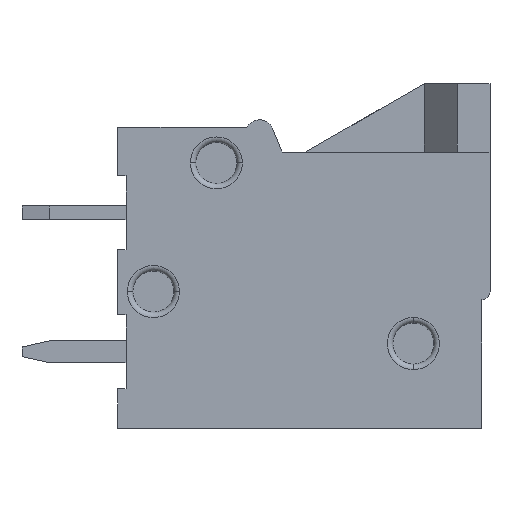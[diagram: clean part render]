
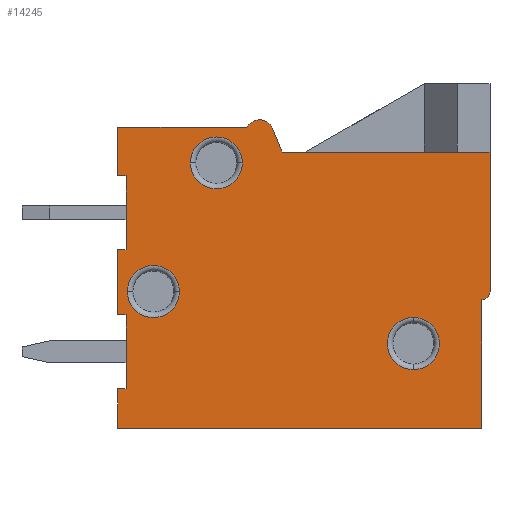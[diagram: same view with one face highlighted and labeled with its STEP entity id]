
A CAD part, front view. The second image highlights one B-rep face of the part: STEP entity #14245.
In plain terms, the highlighted planar face has unit normal (0, -1, 0).
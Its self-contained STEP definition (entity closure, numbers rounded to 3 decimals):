
#480=DIRECTION('',(0.,0.,-1.));
#481=VECTOR('',#480,5.1);
#482=CARTESIAN_POINT('',(6.95,0.,5.1));
#483=LINE('',#482,#481);
#1116=DIRECTION('',(0.,0.,-1.));
#1117=VECTOR('',#1116,2.7);
#1118=CARTESIAN_POINT('',(-6.35,0.,4.23));
#1119=LINE('',#1118,#1117);
#1168=DIRECTION('',(-1.,0.,0.));
#1169=VECTOR('',#1168,0.3);
#1170=CARTESIAN_POINT('',(-6.35,0.,1.53));
#1171=LINE('',#1170,#1169);
#1176=DIRECTION('',(0.,0.,1.));
#1177=VECTOR('',#1176,2.38);
#1178=CARTESIAN_POINT('',(-6.65,0.,-0.85));
#1179=LINE('',#1178,#1177);
#1180=DIRECTION('',(1.,0.,0.));
#1181=VECTOR('',#1180,0.3);
#1182=CARTESIAN_POINT('',(-6.65,0.,-0.85));
#1183=LINE('',#1182,#1181);
#1188=DIRECTION('',(0.,0.,-1.));
#1189=VECTOR('',#1188,2.7);
#1190=CARTESIAN_POINT('',(-6.35,0.,-0.85));
#1191=LINE('',#1190,#1189);
#1220=DIRECTION('',(-1.,0.,0.));
#1221=VECTOR('',#1220,0.3);
#1222=CARTESIAN_POINT('',(-6.35,0.,-3.55));
#1223=LINE('',#1222,#1221);
#1228=DIRECTION('',(0.,0.,1.));
#1229=VECTOR('',#1228,1.45);
#1230=CARTESIAN_POINT('',(-6.65,0.,-5.));
#1231=LINE('',#1230,#1229);
#1252=DIRECTION('',(-1.,0.,0.));
#1253=VECTOR('',#1252,13.3);
#1254=CARTESIAN_POINT('',(6.65,0.,-5.));
#1255=LINE('',#1254,#1253);
#1409=DIRECTION('',(0.,0.,-1.));
#1410=VECTOR('',#1409,4.7);
#1411=CARTESIAN_POINT('',(6.65,0.,-0.3));
#1412=LINE('',#1411,#1410);
#1417=CARTESIAN_POINT('',(6.65,0.,0.));
#1418=DIRECTION('',(0.,1.,0.));
#1419=DIRECTION('',(1.,0.,0.));
#1420=AXIS2_PLACEMENT_3D('',#1417,#1418,#1419);
#1422=DIRECTION('',(0.719,0.,0.695));
#1423=VECTOR('',#1422,0.195);
#1424=CARTESIAN_POINT('',(-1.95,0.,6.));
#1425=LINE('',#1424,#1423);
#1426=CARTESIAN_POINT('',(-1.462,0.,
5.776));
#1427=DIRECTION('',(0.,1.,0.));
#1428=DIRECTION('',(-0.695,0.,0.719));
#1429=AXIS2_PLACEMENT_3D('',#1426,#1427,#1428);
#1431=DIRECTION('',(0.375,0.,-0.927));
#1432=VECTOR('',#1431,0.931);
#1433=CARTESIAN_POINT('',(-0.999,0.,
5.963));
#1434=LINE('',#1433,#1432);
#1435=CARTESIAN_POINT('',(4.15,0.,-1.9));
#1436=DIRECTION('',(0.,-1.,0.));
#1437=DIRECTION('',(0.,0.,-1.));
#1438=AXIS2_PLACEMENT_3D('',#1435,#1436,#1437);
#1440=CARTESIAN_POINT('',(4.15,0.,-1.9));
#1441=DIRECTION('',(0.,-1.,0.));
#1442=DIRECTION('',(0.,0.,1.));
#1443=AXIS2_PLACEMENT_3D('',#1440,#1441,#1442);
#1445=CARTESIAN_POINT('',(-5.35,0.,0.));
#1446=DIRECTION('',(0.,-1.,0.));
#1447=DIRECTION('',(1.,0.,0.));
#1448=AXIS2_PLACEMENT_3D('',#1445,#1446,#1447);
#1450=CARTESIAN_POINT('',(-5.35,0.,0.));
#1451=DIRECTION('',(0.,-1.,0.));
#1452=DIRECTION('',(-1.,0.,0.));
#1453=AXIS2_PLACEMENT_3D('',#1450,#1451,#1452);
#1455=CARTESIAN_POINT('',(-3.05,0.,4.7));
#1456=DIRECTION('',(0.,-1.,0.));
#1457=DIRECTION('',(1.,0.,0.));
#1458=AXIS2_PLACEMENT_3D('',#1455,#1456,#1457);
#1460=CARTESIAN_POINT('',(-3.05,0.,4.7));
#1461=DIRECTION('',(0.,-1.,0.));
#1462=DIRECTION('',(-1.,0.,0.));
#1463=AXIS2_PLACEMENT_3D('',#1460,#1461,#1462);
#1473=DIRECTION('',(1.,0.,0.));
#1474=VECTOR('',#1473,0.3);
#1475=CARTESIAN_POINT('',(-6.65,0.,4.23));
#1476=LINE('',#1475,#1474);
#1477=DIRECTION('',(0.,0.,1.));
#1478=VECTOR('',#1477,1.77);
#1479=CARTESIAN_POINT('',(-6.65,0.,4.23));
#1480=LINE('',#1479,#1478);
#1493=DIRECTION('',(1.,0.,0.));
#1494=VECTOR('',#1493,4.7);
#1495=CARTESIAN_POINT('',(-6.65,0.,6.));
#1496=LINE('',#1495,#1494);
#3656=DIRECTION('',(1.,0.,0.));
#3657=VECTOR('',#3656,7.6);
#3658=CARTESIAN_POINT('',(-0.65,0.,5.1));
#3659=LINE('',#3658,#3657);
#10567=CARTESIAN_POINT('',(6.95,0.,5.1));
#10568=CARTESIAN_POINT('',(6.95,0.,0.));
#10569=VERTEX_POINT('',#10567);
#10570=VERTEX_POINT('',#10568);
#10571=CARTESIAN_POINT('',(-0.65,0.,5.1));
#10572=VERTEX_POINT('',#10571);
#10573=CARTESIAN_POINT('',(-0.999,0.,
5.963));
#10574=VERTEX_POINT('',#10573);
#10575=CARTESIAN_POINT('',(-1.81,0.,
6.136));
#10576=VERTEX_POINT('',#10575);
#10577=CARTESIAN_POINT('',(-1.95,0.,6.));
#10578=VERTEX_POINT('',#10577);
#10579=CARTESIAN_POINT('',(-6.65,0.,6.));
#10580=VERTEX_POINT('',#10579);
#10581=CARTESIAN_POINT('',(-6.65,0.,4.23));
#10582=VERTEX_POINT('',#10581);
#10583=CARTESIAN_POINT('',(-6.35,0.,4.23));
#10584=VERTEX_POINT('',#10583);
#10585=CARTESIAN_POINT('',(-6.35,0.,1.53));
#10586=VERTEX_POINT('',#10585);
#10587=CARTESIAN_POINT('',(-6.65,0.,1.53));
#10588=VERTEX_POINT('',#10587);
#10589=CARTESIAN_POINT('',(-6.65,0.,-0.85));
#10590=VERTEX_POINT('',#10589);
#10591=CARTESIAN_POINT('',(-6.35,0.,-0.85));
#10592=VERTEX_POINT('',#10591);
#10593=CARTESIAN_POINT('',(-6.35,0.,-3.55));
#10594=VERTEX_POINT('',#10593);
#10595=CARTESIAN_POINT('',(-6.65,0.,-3.55));
#10596=VERTEX_POINT('',#10595);
#10597=CARTESIAN_POINT('',(-6.65,0.,-5.));
#10598=VERTEX_POINT('',#10597);
#10599=CARTESIAN_POINT('',(6.65,0.,-5.));
#10600=VERTEX_POINT('',#10599);
#10601=CARTESIAN_POINT('',(6.65,0.,-0.3));
#10602=VERTEX_POINT('',#10601);
#10603=CARTESIAN_POINT('',(4.15,0.,-2.85));
#10604=CARTESIAN_POINT('',(4.15,0.,-0.95));
#10605=VERTEX_POINT('',#10603);
#10606=VERTEX_POINT('',#10604);
#10607=CARTESIAN_POINT('',(-4.4,0.,0.));
#10608=CARTESIAN_POINT('',(-6.3,0.,0.));
#10609=VERTEX_POINT('',#10607);
#10610=VERTEX_POINT('',#10608);
#10611=CARTESIAN_POINT('',(-2.1,0.,4.7));
#10612=CARTESIAN_POINT('',(-4.,0.,4.7));
#10613=VERTEX_POINT('',#10611);
#10614=VERTEX_POINT('',#10612);
#14195=CARTESIAN_POINT('',(0.15,0.,0.638));
#14196=DIRECTION('',(0.,1.,0.));
#14197=DIRECTION('',(1.,0.,0.));
#14198=AXIS2_PLACEMENT_3D('',#14195,#14196,#14197);
#14199=PLANE('',#14198);
#14200=ORIENTED_EDGE('',*,*,#12811,.T.);
#14201=ORIENTED_EDGE('',*,*,#14190,.T.);
#14202=ORIENTED_EDGE('',*,*,#14177,.T.);
#14203=ORIENTED_EDGE('',*,*,#13970,.T.);
#14204=ORIENTED_EDGE('',*,*,#13945,.T.);
#14205=ORIENTED_EDGE('',*,*,#13930,.F.);
#14206=ORIENTED_EDGE('',*,*,#13875,.F.);
#14207=ORIENTED_EDGE('',*,*,#13860,.F.);
#14208=ORIENTED_EDGE('',*,*,#13845,.T.);
#14209=ORIENTED_EDGE('',*,*,#13830,.F.);
#14210=ORIENTED_EDGE('',*,*,#13778,.F.);
#14212=ORIENTED_EDGE('',*,*,#14211,.F.);
#14214=ORIENTED_EDGE('',*,*,#14213,.T.);
#14216=ORIENTED_EDGE('',*,*,#14215,.T.);
#14218=ORIENTED_EDGE('',*,*,#14217,.T.);
#14220=ORIENTED_EDGE('',*,*,#14219,.T.);
#14222=ORIENTED_EDGE('',*,*,#14221,.T.);
#14224=ORIENTED_EDGE('',*,*,#14223,.T.);
#14225=EDGE_LOOP('',(#14200,#14201,#14202,#14203,#14204,#14205,#14206,#14207,
#14208,#14209,#14210,#14212,#14214,#14216,#14218,#14220,#14222,#14224));
#14226=FACE_OUTER_BOUND('',#14225,.F.);
#14228=ORIENTED_EDGE('',*,*,#14227,.T.);
#14230=ORIENTED_EDGE('',*,*,#14229,.T.);
#14231=EDGE_LOOP('',(#14228,#14230));
#14232=FACE_BOUND('',#14231,.F.);
#14234=ORIENTED_EDGE('',*,*,#14233,.T.);
#14236=ORIENTED_EDGE('',*,*,#14235,.T.);
#14237=EDGE_LOOP('',(#14234,#14236));
#14238=FACE_BOUND('',#14237,.F.);
#14240=ORIENTED_EDGE('',*,*,#14239,.T.);
#14242=ORIENTED_EDGE('',*,*,#14241,.T.);
#14243=EDGE_LOOP('',(#14240,#14242));
#14244=FACE_BOUND('',#14243,.F.);
#14245=ADVANCED_FACE('',(#14226,#14232,#14238,#14244),#14199,.F.);
#1421=CIRCLE('',#1420,0.3);
#1430=CIRCLE('',#1429,0.5);
#1439=CIRCLE('',#1438,0.95);
#1444=CIRCLE('',#1443,0.95);
#1449=CIRCLE('',#1448,0.95);
#1454=CIRCLE('',#1453,0.95);
#1459=CIRCLE('',#1458,0.95);
#1464=CIRCLE('',#1463,0.95);
#12811=EDGE_CURVE('',#10569,#10570,#483,.T.);
#13778=EDGE_CURVE('',#10584,#10586,#1119,.T.);
#13830=EDGE_CURVE('',#10586,#10588,#1171,.T.);
#13845=EDGE_CURVE('',#10590,#10588,#1179,.T.);
#13860=EDGE_CURVE('',#10590,#10592,#1183,.T.);
#13875=EDGE_CURVE('',#10592,#10594,#1191,.T.);
#13930=EDGE_CURVE('',#10594,#10596,#1223,.T.);
#13945=EDGE_CURVE('',#10598,#10596,#1231,.T.);
#13970=EDGE_CURVE('',#10600,#10598,#1255,.T.);
#14177=EDGE_CURVE('',#10602,#10600,#1412,.T.);
#14190=EDGE_CURVE('',#10570,#10602,#1421,.T.);
#14211=EDGE_CURVE('',#10582,#10584,#1476,.T.);
#14213=EDGE_CURVE('',#10582,#10580,#1480,.T.);
#14215=EDGE_CURVE('',#10580,#10578,#1496,.T.);
#14217=EDGE_CURVE('',#10578,#10576,#1425,.T.);
#14219=EDGE_CURVE('',#10576,#10574,#1430,.T.);
#14221=EDGE_CURVE('',#10574,#10572,#1434,.T.);
#14223=EDGE_CURVE('',#10572,#10569,#3659,.T.);
#14227=EDGE_CURVE('',#10605,#10606,#1439,.T.);
#14229=EDGE_CURVE('',#10606,#10605,#1444,.T.);
#14233=EDGE_CURVE('',#10609,#10610,#1449,.T.);
#14235=EDGE_CURVE('',#10610,#10609,#1454,.T.);
#14239=EDGE_CURVE('',#10613,#10614,#1459,.T.);
#14241=EDGE_CURVE('',#10614,#10613,#1464,.T.);
